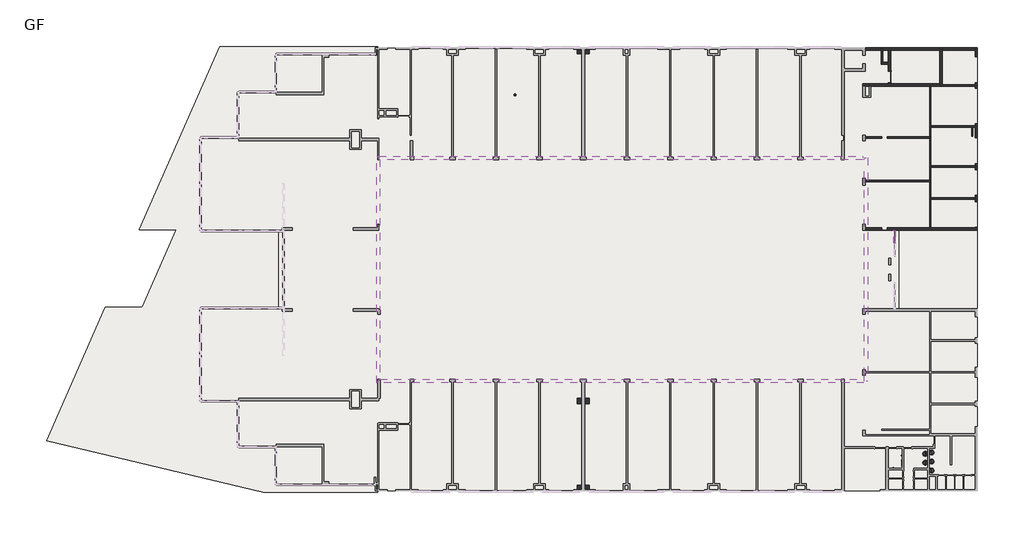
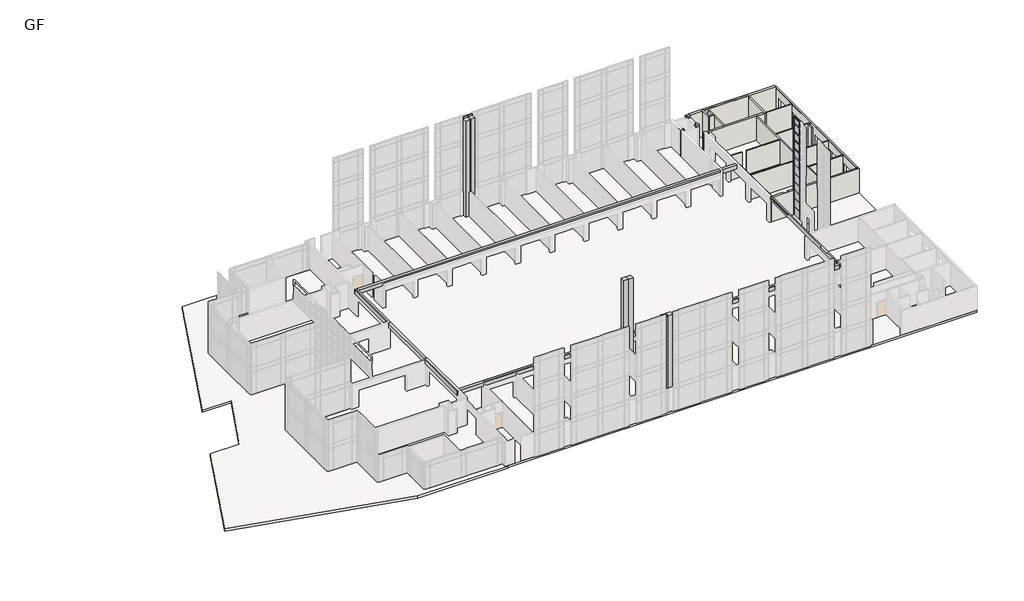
# One storey, part 23 of 23: 24 members, 17 walls, 12 plates, 9 columns, 9 flow terminals, 4 beams, 2 slabs, 1 door, 1 light fixture.
"""IFC4 building model written with IfcOpenShell, lengths in millimetres."""

from ifc_helpers import new_model, si_unit, frame, origin, place, context, project, spatial, polyline, outline, extrude, faceted_brep, transform, mapped, element, save
from components import m_single_flush_d_1200x2150_ab82cfb8, grab_rail_horizontal_grab_bar_horizontal_3488bc9b, grab_rail_vertical_grab_rail_vertical_4faa361f, sink_bathroom_2_sink_bathroom_2_b4141ae8, sink_bathroom_2_sink_bathroom_2_ad220687, street_light_8_street_light_8_87dfb617, rectangular_mullion_50_x_150mm_6588f46c, rectangular_mullion_50_x_150mm_35d6a770, rectangular_mullion_50_x_150mm_d99dc9be, rectangular_mullion_50_x_150mm_3ddb3363, rectangular_mullion_50_x_150mm_c30a9d19, rectangular_mullion_50_x_150mm_f822ab76, system_panel_glazed_1d396b08, system_panel_glazed_262f750d, system_panel_glazed_b53cd975, system_panel_glazed_33a55230

model = new_model("IFC4")

# Units and contexts
model_context = context("Model", 3, world=origin())
ifc_project = project(units=[si_unit("LENGTHUNIT", "METRE", prefix="MILLI")], contexts=[model_context])

# Site, building, storey
site = spatial("IfcSite", under=ifc_project)
building = spatial("IfcBuilding", under=site)
storey = spatial("IfcBuildingStorey", under=building, Name="GF", Elevation=900.0)

# Beams
placement = place(None, origin())
element("IfcBeam", 1, ObjectType="M_Concrete-Rectangular Beam : 350 x 550mm", at=placement, inside=storey, context=model_context, shape_type="SweptSolid", body=[
    extrude(outline(polyline([(-20537.5865899, 9397.3851347), (-20640.5865899, 9500.3851347), (-20640.5865899, 9747.3851347), (30775.4134101, 9747.3851347), (30775.4134101, 9397.3851347), (-20537.5865899, 9397.3851347)])), frame((0.0, 0.0, 4100.0), z_axis=(0.0, 0.0, 1.0), x_axis=(1.0, 0.0, 0.0)), (0.0, 0.0, 1.0), 550.0),
    extrude(outline(polyline([(-20782.5865899, 9642.3851347), (-20887.5865899, 9747.3851347), (-20782.5865899, 9747.3851347), (-20782.5865899, 9642.3851347)])), frame((0.0, 0.0, 4100.0), z_axis=(0.0, 0.0, 1.0), x_axis=(1.0, 0.0, 0.0)), (0.0, 0.0, 1.0), 550.0),
])
element("IfcBeam", 2, ObjectType="M_Concrete-Rectangular Beam : 350 x 550mm", at=placement, inside=storey, context=model_context, shape_type="Brep", body=[
    faceted_brep([(30962.4134101, -14147.6148653, 4025.0), (31312.4134101, -14147.6148653, 4025.0), (31312.4134101, -14147.6148653, 4375.0), (30962.4134101, -14147.6148653, 4375.0), (31312.4134101, 9572.3851347, 4025.0), (30962.4134101, 9572.3851347, 4025.0), (30962.4134101, 9572.3851347, 4375.0), (31312.4134101, 9572.3851347, 4375.0), (30962.4134101, -11460.6148653, 4575.0), (30962.4134101, -13960.6148653, 4575.0), (30977.4134101, -13960.6148653, 4575.0), (30977.4134101, -11460.6148653, 4575.0), (30962.4134101, 9397.3851347, 4025.0), (30962.4134101, -13972.6148653, 4025.0), (30962.4134101, -13960.6148653, 4375.0), (30962.4134101, -11460.6148653, 4375.0), (30962.4134101, -9910.6148653, 4375.0), (30962.4134101, -9910.6148653, 4575.0), (30962.4134101, 5335.3851347, 4575.0), (30962.4134101, 5335.3851347, 4375.0), (30962.4134101, 6885.3851347, 4375.0), (30962.4134101, 6885.3851347, 4575.0), (30962.4134101, 9385.3851347, 4575.0), (30962.4134101, 9385.3851347, 4375.0), (30977.4134101, -11460.6148653, 4375.0), (30977.4134101, -13960.6148653, 4375.0), (30977.4134101, 9385.3851347, 4375.0), (30977.4134101, 6885.3851347, 4375.0), (30977.4134101, 5335.3851347, 4375.0), (30977.4134101, -9910.6148653, 4375.0), (30977.4134101, -9910.6148653, 4575.0), (30977.4134101, 5335.3851347, 4575.0), (30977.4134101, 6885.3851347, 4575.0), (30977.4134101, 9385.3851347, 4575.0)], [[[0, 1, 2, 3]], [[4, 5, 6, 7]], [[8, 9, 10, 11]], [[5, 12, 13, 0, 3, 14, 9, 8, 15, 16, 17, 18, 19, 20, 21, 22, 23, 6]], [[1, 0, 13, 12, 5, 4]], [[1, 4, 7, 2]], [[24, 25, 14, 3, 2, 7, 6, 23, 26, 27, 20, 19, 28, 29, 16, 15]], [[14, 25, 10, 9]], [[25, 24, 11, 10]], [[24, 15, 8, 11]], [[16, 29, 30, 17]], [[29, 28, 31, 30]], [[28, 19, 18, 31]], [[20, 27, 32, 21]], [[27, 26, 33, 32]], [[26, 23, 22, 33]], [[18, 17, 30, 31]], [[22, 21, 32, 33]]]),
])
element("IfcBeam", 3, ObjectType="M_Concrete-Rectangular Beam : 350 x 550mm", at=placement, inside=storey, context=model_context, shape_type="SweptSolid", body=[
    extrude(outline(polyline([(-20887.5865899, -14322.6148653), (-20537.5865899, -13972.6148653), (30900.9134101, -13972.6148653), (30900.9134101, -14322.6148653), (-20887.5865899, -14322.6148653)])), frame((0.0, 0.0, 4100.0), z_axis=(0.0, 0.0, 1.0), x_axis=(1.0, 0.0, 0.0)), (0.0, 0.0, 1.0), 550.0),
])
element("IfcBeam", 4, ObjectType="M_Concrete-Rectangular Beam : 350 x 550mm", at=placement, inside=storey, context=model_context, shape_type="Brep", body=[
    faceted_brep([(-20887.5865899, 9747.3851347, 4575.0), (-20887.5865899, -14322.6148653, 4575.0), (-20537.5865899, -13972.6148653, 4575.0), (-20537.5865899, 9397.3851347, 4575.0), (-20537.5865899, -13972.6148653, 4100.0), (-20537.5865899, -13972.6148653, 4025.0), (-20537.5865899, 9397.3851347, 4025.0), (-20537.5865899, 9397.3851347, 4100.0), (-20887.5865899, -14322.6148653, 4025.0), (-20887.5865899, 9747.3851347, 4025.0), (-20887.5865899, 9747.3851347, 4100.0), (-20887.5865899, -14322.6148653, 4100.0)], [[[0, 1, 2, 3]], [[3, 2, 4, 5, 6, 7]], [[6, 5, 8, 9]], [[1, 0, 10, 9, 8, 11]], [[0, 3, 7, 6, 9, 10]], [[8, 5, 4, 2, 1, 11]]]),
])

# Columns
element("IfcColumn", 5, ObjectType="M_Concrete-Lshaped-Column : C4-450x450x230", at=placement, inside=storey, context=model_context, shape_type="SweptSolid", body=[
    extrude(outline(polyline([(28787.4134101, 19237.3851347), (28787.4134101, 19017.3851347), (29007.4134101, 19017.3851347), (29007.4134101, 18787.3851347), (28557.4134101, 18787.3851347), (28557.4134101, 19237.3851347), (28787.4134101, 19237.3851347)])), frame((0.0, 0.0, 900.0), z_axis=(0.0, 0.0, 1.0), x_axis=(1.0, 0.0, 0.0)), (0.0, 0.0, 1.0), 3750.0),
])
element("IfcColumn", 6, ObjectType="M_Concrete-Lshaped-Column : C4-450x450x230", at=placement, inside=storey, context=model_context, shape_type="SweptSolid", body=[
    extrude(outline(polyline([(30787.4134101, 19237.3851347), (31017.4134101, 19237.3851347), (31017.4134101, 18787.3851347), (30567.4134101, 18787.3851347), (30567.4134101, 19017.3851347), (30787.4134101, 19017.3851347), (30787.4134101, 19237.3851347)])), frame((0.0, 0.0, 900.0), z_axis=(0.0, 0.0, 1.0), x_axis=(1.0, 0.0, 0.0)), (0.0, 0.0, 1.0), 3750.0),
])
element("IfcColumn", 7, ObjectType="M_Concrete-Lshaped-Column : C4-450x450x230", at=placement, inside=storey, context=model_context, shape_type="SweptSolid", body=[
    extrude(outline(polyline([(30787.4134101, 20797.3851347), (30787.4134101, 21017.3851347), (30567.4134101, 21017.3851347), (30567.4134101, 21247.3851347), (31017.4134101, 21247.3851347), (31017.4134101, 20797.3851347), (30787.4134101, 20797.3851347)])), frame((0.0, 0.0, 900.0), z_axis=(0.0, 0.0, 1.0), x_axis=(1.0, 0.0, 0.0)), (0.0, 0.0, 1.0), 3750.0),
])
element("IfcColumn", 8, ObjectType="Concrete-Rectangular-Column : 600x600", at=placement, inside=storey, context=model_context, shape_type="Brep", body=[
    faceted_brep([(1022.4134101, -15972.6148653, 900.0), (1022.4134101, -16572.6148653, 900.0), (422.4134101, -16572.6148653, 900.0), (422.4134101, -15972.6148653, 900.0), (422.4134101, -15972.6148653, 7550.0), (422.4134101, -15972.6148653, 8100.0), (422.4134101, -15972.6148653, 11300.0), (422.4134101, -15972.6148653, 11850.0), (422.4134101, -15972.6148653, 14375.0), (1022.4134101, -15972.6148653, 14375.0), (1022.4134101, -15972.6148653, 11850.0), (1022.4134101, -15972.6148653, 11300.0), (1022.4134101, -15972.6148653, 8100.0), (1022.4134101, -15972.6148653, 7550.0), (422.4134101, -16572.6148653, 14375.0), (1022.4134101, -16572.6148653, 14375.0)], [[[0, 1, 2, 3]], [[0, 3, 4, 5, 6, 7, 8, 9, 10, 11, 12, 13]], [[3, 2, 14, 8, 7, 6, 5, 4]], [[2, 1, 15, 14]], [[1, 0, 13, 12, 11, 10, 9, 15]], [[9, 8, 14, 15]]]),
])
element("IfcColumn", 9, ObjectType="Concrete-Rectangular-Column : 600x600", at=placement, inside=storey, context=model_context, shape_type="SweptSolid", body=[
    extrude(outline(polyline([(21247.3851347, 900.0), (20647.3851347, 900.0), (20647.3851347, 14725.0), (21235.3851347, 14725.0), (21235.3851347, 15000.0), (21247.3851347, 15000.0), (21247.3851347, 900.0)])), frame((422.4134101, 0.0, 0.0), z_axis=(1.0, 0.0, 0.0), x_axis=(0.0, 1.0, 0.0)), (0.0, 0.0, 1.0), 600.0),
])
element("IfcColumn", 10, ObjectType="Concrete-Rectangular-Column : 600x600", at=placement, inside=storey, context=model_context, shape_type="Brep", body=[
    faceted_brep([(1697.4134101, -15972.6148653, 900.0), (1697.4134101, -16572.6148653, 900.0), (1097.4134101, -16572.6148653, 900.0), (1097.4134101, -15972.6148653, 900.0), (1097.4134101, -15972.6148653, 7550.0), (1097.4134101, -15972.6148653, 8100.0), (1097.4134101, -15972.6148653, 11300.0), (1097.4134101, -15972.6148653, 11850.0), (1097.4134101, -15972.6148653, 14375.0), (1697.4134101, -15972.6148653, 14375.0), (1697.4134101, -15972.6148653, 11850.0), (1697.4134101, -15972.6148653, 11300.0), (1697.4134101, -15972.6148653, 8100.0), (1697.4134101, -15972.6148653, 7550.0), (1097.4134101, -16572.6148653, 14375.0), (1697.4134101, -16572.6148653, 14375.0)], [[[0, 1, 2, 3]], [[0, 3, 4, 5, 6, 7, 8, 9, 10, 11, 12, 13]], [[3, 2, 14, 8, 7, 6, 5, 4]], [[2, 1, 15, 14]], [[1, 0, 13, 12, 11, 10, 9, 15]], [[9, 8, 14, 15]]]),
])
element("IfcColumn", 11, ObjectType="Concrete-Rectangular-Column : 600x600", at=placement, inside=storey, context=model_context, shape_type="SweptSolid", body=[
    extrude(outline(polyline([(21247.3851347, 900.0), (20647.3851347, 900.0), (20647.3851347, 14725.0), (21235.3851347, 14725.0), (21235.3851347, 15000.0), (21247.3851347, 15000.0), (21247.3851347, 900.0)])), frame((1097.4134101, 0.0, 0.0), z_axis=(1.0, 0.0, 0.0), x_axis=(0.0, 1.0, 0.0)), (0.0, 0.0, 1.0), 600.0),
])
element("IfcColumn", 12, ObjectType="Concrete-Rectangular-Column : 600x600", at=placement, inside=storey, context=model_context, shape_type="SweptSolid", body=[
    extrude(outline(polyline([(1022.4134101, -25222.6148653), (1022.4134101, -25822.6148653), (422.4134101, -25822.6148653), (422.4134101, -25222.6148653), (1022.4134101, -25222.6148653)])), frame((0.0, 0.0, 900.0), z_axis=(0.0, 0.0, 1.0), x_axis=(1.0, 0.0, 0.0)), (0.0, 0.0, 1.0), 13825.0),
])
element("IfcColumn", 13, ObjectType="Concrete-Rectangular-Column : 600x600", at=placement, inside=storey, context=model_context, shape_type="SweptSolid", body=[
    extrude(outline(polyline([(1697.4134101, -25222.6148653), (1697.4134101, -25822.6148653), (1097.4134101, -25822.6148653), (1097.4134101, -25222.6148653), (1697.4134101, -25222.6148653)])), frame((0.0, 0.0, 900.0), z_axis=(0.0, 0.0, 1.0), x_axis=(1.0, 0.0, 0.0)), (0.0, 0.0, 1.0), 13825.0),
])

# Door
m_single_flush_d_1200x2150_shape = m_single_flush_d_1200x2150_ab82cfb8(model_context)
element("IfcDoor", 14, ObjectType="M_Single-Flush : D-1200x2150", at=placement, inside=storey, context=model_context, shape_type="MappedRepresentation", body=[
    mapped(m_single_flush_d_1200x2150_shape, transform((33645.9134101, 18167.3851347, 900.0), x_axis=(0.0, -1.0, 0.0), y_axis=(1.0, 0.0, 0.0), z_axis=(0.0, 0.0, 1.0))),
])

# Flow terminals
grab_rail_horizontal_grab_bar_horizontal_shape = grab_rail_horizontal_grab_bar_horizontal_3488bc9b(model_context)
element("IfcFlowTerminal", 15, ObjectType="Grab Rail - Horizontal : Grab Bar Horizontal", at=placement, inside=storey, context=model_context, shape_type="MappedRepresentation", body=[
    mapped(grab_rail_horizontal_grab_bar_horizontal_shape, transform((34992.4134101, -23724.4105318, 900.0), x_axis=(0.0, -1.0, 0.0), y_axis=(1.0, 0.0, 0.0), z_axis=(0.0, 0.0, 1.0))),
])
grab_rail_vertical_grab_rail_vertical_shape = grab_rail_vertical_grab_rail_vertical_4faa361f(model_context)
element("IfcFlowTerminal", 16, ObjectType="Grab Rail - Vertical : Grab Rail Vertical", at=placement, inside=storey, context=model_context, shape_type="MappedRepresentation", body=[
    mapped(grab_rail_vertical_grab_rail_vertical_shape, transform((33166.6177436, -23422.6148653, 900.0), x_axis=(-1.0, 0.0, 0.0), y_axis=(0.0, -1.0, 0.0), z_axis=(0.0, 0.0, 1.0))),
])
element("IfcFlowTerminal", 17, ObjectType="Grab Rail - Vertical : Grab Rail Vertical", at=placement, inside=storey, context=model_context, shape_type="MappedRepresentation", body=[
    mapped(grab_rail_vertical_grab_rail_vertical_shape, transform((34992.4134101, -23424.4105318, 900.0), x_axis=(0.0, -1.0, 0.0), y_axis=(1.0, 0.0, 0.0), z_axis=(0.0, 0.0, 1.0))),
])
element("IfcFlowTerminal", 18, ObjectType="Grab Rail - Vertical : Grab Rail Vertical", at=placement, inside=storey, context=model_context, shape_type="MappedRepresentation", body=[
    mapped(grab_rail_vertical_grab_rail_vertical_shape, transform((34992.4134101, -22924.4105318, 900.0), x_axis=(0.0, -1.0, 0.0), y_axis=(1.0, 0.0, 0.0), z_axis=(0.0, 0.0, 1.0))),
])
sink_bathroom_2_sink_bathroom_2_shape = sink_bathroom_2_sink_bathroom_2_b4141ae8(model_context)
element("IfcFlowTerminal", 19, ObjectType="Sink - Bathroom (2) : Sink - Bathroom (2)", at=placement, inside=storey, context=model_context, shape_type="MappedRepresentation", body=[
    mapped(sink_bathroom_2_sink_bathroom_2_shape, transform((37822.4134101, -22732.4647318, 900.0), x_axis=(0.0, 1.0, 0.0), y_axis=(-1.0, 0.0, 0.0), z_axis=(0.0, 0.0, 1.0))),
])
element("IfcFlowTerminal", 20, ObjectType="Sink - Bathroom (2) : Sink - Bathroom (2)", at=placement, inside=storey, context=model_context, shape_type="MappedRepresentation", body=[
    mapped(sink_bathroom_2_sink_bathroom_2_shape, transform((37822.4134101, -21782.4647318, 900.0), x_axis=(0.0, 1.0, 0.0), y_axis=(-1.0, 0.0, 0.0), z_axis=(0.0, 0.0, 1.0))),
])
element("IfcFlowTerminal", 21, ObjectType="Sink - Bathroom (2) : Sink - Bathroom (2)", at=placement, inside=storey, context=model_context, shape_type="MappedRepresentation", body=[
    mapped(sink_bathroom_2_sink_bathroom_2_shape, transform((37822.4134101, -23682.4647318, 900.0), x_axis=(0.0, 1.0, 0.0), y_axis=(-1.0, 0.0, 0.0), z_axis=(0.0, 0.0, 1.0))),
])
sink_bathroom_2_sink_bathroom_2_2_shape = sink_bathroom_2_sink_bathroom_2_ad220687(model_context)
element("IfcFlowTerminal", 22, ObjectType="Sink - Bathroom (2) : Sink - Bathroom (2)", at=placement, inside=storey, context=model_context, shape_type="MappedRepresentation", body=[
    mapped(sink_bathroom_2_sink_bathroom_2_2_shape, transform((37707.4134101, -22859.9647318, 900.0), x_axis=(0.0, 1.0, 0.0), y_axis=(-1.0, 0.0, 0.0), z_axis=(0.0, 0.0, 1.0))),
])
element("IfcFlowTerminal", 23, ObjectType="Sink - Bathroom (2) : Sink - Bathroom (2)", at=placement, inside=storey, context=model_context, shape_type="MappedRepresentation", body=[
    mapped(sink_bathroom_2_sink_bathroom_2_2_shape, transform((37707.4134101, -21909.9647318, 900.0), x_axis=(0.0, 1.0, 0.0), y_axis=(-1.0, 0.0, 0.0), z_axis=(0.0, 0.0, 1.0))),
])

# Light fixture
street_light_8_street_light_8_shape = street_light_8_street_light_8_87dfb617(model_context)
element("IfcLightFixture", 24, ObjectType="Street Light (8) : Street Light (8)", at=placement, inside=storey, context=model_context, shape_type="MappedRepresentation", body=[
    mapped(street_light_8_street_light_8_shape, transform((-6207.5865899, 16277.3851347, 950.0), x_axis=(1.0, 0.0, 0.0), y_axis=(0.0, 1.0, 0.0), z_axis=(0.0, 0.0, 1.0))),
])

# Members
rectangular_mullion_50_x_150mm_shape = rectangular_mullion_50_x_150mm_6588f46c(model_context)
element("IfcMember", 25, ObjectType="Rectangular Mullion : 50 x 150mm", at=placement, inside=storey, context=model_context, shape_type="MappedRepresentation", body=[
    mapped(rectangular_mullion_50_x_150mm_shape, transform((34137.4134101, 1898.8851347, 9300.0), x_axis=(0.0, 1.0, 0.0), y_axis=(1.0, 0.0, 0.0), z_axis=(0.0, 0.0, -1.0))),
])
element("IfcMember", 26, ObjectType="Rectangular Mullion : 50 x 150mm", at=placement, inside=storey, context=model_context, shape_type="MappedRepresentation", body=[
    mapped(rectangular_mullion_50_x_150mm_shape, transform((34137.4134101, 1898.8851347, 10500.0), x_axis=(0.0, 1.0, 0.0), y_axis=(1.0, 0.0, 0.0), z_axis=(0.0, 0.0, -1.0))),
])
element("IfcMember", 27, ObjectType="Rectangular Mullion : 50 x 150mm", at=placement, inside=storey, context=model_context, shape_type="MappedRepresentation", body=[
    mapped(rectangular_mullion_50_x_150mm_shape, transform((34137.4134101, 1898.8851347, 11700.0), x_axis=(0.0, 1.0, 0.0), y_axis=(1.0, 0.0, 0.0), z_axis=(0.0, 0.0, -1.0))),
])
element("IfcMember", 28, ObjectType="Rectangular Mullion : 50 x 150mm", at=placement, inside=storey, context=model_context, shape_type="MappedRepresentation", body=[
    mapped(rectangular_mullion_50_x_150mm_shape, transform((34137.4134101, 1898.8851347, 12900.0), x_axis=(0.0, 1.0, 0.0), y_axis=(1.0, 0.0, 0.0), z_axis=(0.0, 0.0, -1.0))),
])
rectangular_mullion_50_x_150mm_2_shape = rectangular_mullion_50_x_150mm_35d6a770(model_context)
element("IfcMember", 29, ObjectType="Rectangular Mullion : 50 x 150mm", at=placement, inside=storey, context=model_context, shape_type="MappedRepresentation", body=[
    mapped(rectangular_mullion_50_x_150mm_2_shape, transform((34137.4134101, 1898.8851347, 14100.0), x_axis=(0.0, 1.0, 0.0), y_axis=(1.0, 0.0, 0.0), z_axis=(0.0, 0.0, -1.0))),
])
rectangular_mullion_50_x_150mm_3_shape = rectangular_mullion_50_x_150mm_d99dc9be(model_context)
element("IfcMember", 30, ObjectType="Rectangular Mullion : 50 x 150mm", at=placement, inside=storey, context=model_context, shape_type="MappedRepresentation", body=[
    mapped(rectangular_mullion_50_x_150mm_3_shape, transform((34137.4134101, 521.3639251, 9300.0), x_axis=(0.0, 1.0, 0.0), y_axis=(1.0, 0.0, 0.0), z_axis=(0.0, 0.0, -1.0))),
])
element("IfcMember", 31, ObjectType="Rectangular Mullion : 50 x 150mm", at=placement, inside=storey, context=model_context, shape_type="MappedRepresentation", body=[
    mapped(rectangular_mullion_50_x_150mm_3_shape, transform((34137.4134101, 521.3639251, 10500.0), x_axis=(0.0, 1.0, 0.0), y_axis=(1.0, 0.0, 0.0), z_axis=(0.0, 0.0, -1.0))),
])
element("IfcMember", 32, ObjectType="Rectangular Mullion : 50 x 150mm", at=placement, inside=storey, context=model_context, shape_type="MappedRepresentation", body=[
    mapped(rectangular_mullion_50_x_150mm_3_shape, transform((34137.4134101, 521.3639251, 11700.0), x_axis=(0.0, 1.0, 0.0), y_axis=(1.0, 0.0, 0.0), z_axis=(0.0, 0.0, -1.0))),
])
element("IfcMember", 33, ObjectType="Rectangular Mullion : 50 x 150mm", at=placement, inside=storey, context=model_context, shape_type="MappedRepresentation", body=[
    mapped(rectangular_mullion_50_x_150mm_3_shape, transform((34137.4134101, 521.3639251, 12900.0), x_axis=(0.0, 1.0, 0.0), y_axis=(1.0, 0.0, 0.0), z_axis=(0.0, 0.0, -1.0))),
])
rectangular_mullion_50_x_150mm_4_shape = rectangular_mullion_50_x_150mm_3ddb3363(model_context)
element("IfcMember", 34, ObjectType="Rectangular Mullion : 50 x 150mm", at=placement, inside=storey, context=model_context, shape_type="MappedRepresentation", body=[
    mapped(rectangular_mullion_50_x_150mm_4_shape, transform((34137.4134101, 521.3639251, 14100.0), x_axis=(0.0, 1.0, 0.0), y_axis=(1.0, 0.0, 0.0), z_axis=(0.0, 0.0, -1.0))),
])
rectangular_mullion_50_x_150mm_5_shape = rectangular_mullion_50_x_150mm_c30a9d19(model_context)
element("IfcMember", 35, ObjectType="Rectangular Mullion : 50 x 150mm", at=placement, inside=storey, context=model_context, shape_type="MappedRepresentation", body=[
    mapped(rectangular_mullion_50_x_150mm_5_shape, transform((34137.4134101, 1848.8851347, 15000.0), x_axis=(0.0, 0.0, 1.0), y_axis=(1.0, 0.0, 0.0), z_axis=(0.0, 1.0, 0.0))),
])
rectangular_mullion_50_x_150mm_6_shape = rectangular_mullion_50_x_150mm_f822ab76(model_context)
element("IfcMember", 36, ObjectType="Rectangular Mullion : 50 x 150mm", at=placement, inside=storey, context=model_context, shape_type="MappedRepresentation", body=[
    mapped(rectangular_mullion_50_x_150mm_6_shape, transform((34137.4134101, 1848.8851347, 9300.0), x_axis=(0.0, 0.0, 1.0), y_axis=(1.0, 0.0, 0.0), z_axis=(0.0, 1.0, 0.0))),
])
element("IfcMember", 37, ObjectType="Rectangular Mullion : 50 x 150mm", at=placement, inside=storey, context=model_context, shape_type="MappedRepresentation", body=[
    mapped(rectangular_mullion_50_x_150mm_6_shape, transform((34137.4134101, 1848.8851347, 10500.0), x_axis=(0.0, 0.0, 1.0), y_axis=(1.0, 0.0, 0.0), z_axis=(0.0, 1.0, 0.0))),
])
element("IfcMember", 38, ObjectType="Rectangular Mullion : 50 x 150mm", at=placement, inside=storey, context=model_context, shape_type="MappedRepresentation", body=[
    mapped(rectangular_mullion_50_x_150mm_6_shape, transform((34137.4134101, 1848.8851347, 11700.0), x_axis=(0.0, 0.0, 1.0), y_axis=(1.0, 0.0, 0.0), z_axis=(0.0, 1.0, 0.0))),
])
element("IfcMember", 39, ObjectType="Rectangular Mullion : 50 x 150mm", at=placement, inside=storey, context=model_context, shape_type="MappedRepresentation", body=[
    mapped(rectangular_mullion_50_x_150mm_6_shape, transform((34137.4134101, 1848.8851347, 12900.0), x_axis=(0.0, 0.0, 1.0), y_axis=(1.0, 0.0, 0.0), z_axis=(0.0, 1.0, 0.0))),
])
element("IfcMember", 40, ObjectType="Rectangular Mullion : 50 x 150mm", at=placement, inside=storey, context=model_context, shape_type="MappedRepresentation", body=[
    mapped(rectangular_mullion_50_x_150mm_6_shape, transform((34137.4134101, 1848.8851347, 14100.0), x_axis=(0.0, 0.0, 1.0), y_axis=(1.0, 0.0, 0.0), z_axis=(0.0, 1.0, 0.0))),
])
element("IfcMember", 41, ObjectType="Rectangular Mullion : 50 x 150mm", at=placement, inside=storey, context=model_context, shape_type="MappedRepresentation", body=[
    mapped(rectangular_mullion_50_x_150mm_3_shape, transform((34137.4134101, 521.3639251, 8100.0), x_axis=(0.0, 1.0, 0.0), y_axis=(1.0, 0.0, 0.0), z_axis=(0.0, 0.0, -1.0))),
])
element("IfcMember", 42, ObjectType="Rectangular Mullion : 50 x 150mm", at=placement, inside=storey, context=model_context, shape_type="MappedRepresentation", body=[
    mapped(rectangular_mullion_50_x_150mm_shape, transform((34137.4134101, 1898.8851347, 900.0), x_axis=(0.0, 1.0, 0.0), y_axis=(1.0, 0.0, 0.0), z_axis=(0.0, 0.0, -1.0))),
])
element("IfcMember", 43, ObjectType="Rectangular Mullion : 50 x 150mm", at=placement, inside=storey, context=model_context, shape_type="MappedRepresentation", body=[
    mapped(rectangular_mullion_50_x_150mm_shape, transform((34137.4134101, 1898.8851347, 2100.0), x_axis=(0.0, 1.0, 0.0), y_axis=(1.0, 0.0, 0.0), z_axis=(0.0, 0.0, -1.0))),
])
element("IfcMember", 44, ObjectType="Rectangular Mullion : 50 x 150mm", at=placement, inside=storey, context=model_context, shape_type="MappedRepresentation", body=[
    mapped(rectangular_mullion_50_x_150mm_shape, transform((34137.4134101, 1898.8851347, 3300.0), x_axis=(0.0, 1.0, 0.0), y_axis=(1.0, 0.0, 0.0), z_axis=(0.0, 0.0, -1.0))),
])
element("IfcMember", 45, ObjectType="Rectangular Mullion : 50 x 150mm", at=placement, inside=storey, context=model_context, shape_type="MappedRepresentation", body=[
    mapped(rectangular_mullion_50_x_150mm_shape, transform((34137.4134101, 1898.8851347, 4500.0), x_axis=(0.0, 1.0, 0.0), y_axis=(1.0, 0.0, 0.0), z_axis=(0.0, 0.0, -1.0))),
])
element("IfcMember", 46, ObjectType="Rectangular Mullion : 50 x 150mm", at=placement, inside=storey, context=model_context, shape_type="MappedRepresentation", body=[
    mapped(rectangular_mullion_50_x_150mm_shape, transform((34137.4134101, 1898.8851347, 5700.0), x_axis=(0.0, 1.0, 0.0), y_axis=(1.0, 0.0, 0.0), z_axis=(0.0, 0.0, -1.0))),
])
element("IfcMember", 47, ObjectType="Rectangular Mullion : 50 x 150mm", at=placement, inside=storey, context=model_context, shape_type="MappedRepresentation", body=[
    mapped(rectangular_mullion_50_x_150mm_shape, transform((34137.4134101, 1898.8851347, 6900.0), x_axis=(0.0, 1.0, 0.0), y_axis=(1.0, 0.0, 0.0), z_axis=(0.0, 0.0, -1.0))),
])
element("IfcMember", 48, ObjectType="Rectangular Mullion : 50 x 150mm", at=placement, inside=storey, context=model_context, shape_type="MappedRepresentation", body=[
    mapped(rectangular_mullion_50_x_150mm_shape, transform((34137.4134101, 1898.8851347, 8100.0), x_axis=(0.0, 1.0, 0.0), y_axis=(1.0, 0.0, 0.0), z_axis=(0.0, 0.0, -1.0))),
])

# Plates
system_panel_glazed_shape = system_panel_glazed_1d396b08(model_context)
element("IfcPlate", 49, ObjectType="System Panel : Glazed", at=placement, inside=storey, context=model_context, shape_type="MappedRepresentation", body=[
    mapped(system_panel_glazed_shape, transform((34137.4134101, 1197.6245299, 9325.0), x_axis=(0.0, 1.0, 0.0), y_axis=(-1.0, 0.0, 0.0), z_axis=(0.0, 0.0, 1.0))),
])
element("IfcPlate", 50, ObjectType="System Panel : Glazed", at=placement, inside=storey, context=model_context, shape_type="MappedRepresentation", body=[
    mapped(system_panel_glazed_shape, transform((34137.4134101, 1197.6245299, 10525.0), x_axis=(0.0, 1.0, 0.0), y_axis=(-1.0, 0.0, 0.0), z_axis=(0.0, 0.0, 1.0))),
])
element("IfcPlate", 51, ObjectType="System Panel : Glazed", at=placement, inside=storey, context=model_context, shape_type="MappedRepresentation", body=[
    mapped(system_panel_glazed_shape, transform((34137.4134101, 1197.6245299, 11725.0), x_axis=(0.0, 1.0, 0.0), y_axis=(-1.0, 0.0, 0.0), z_axis=(0.0, 0.0, 1.0))),
])
element("IfcPlate", 52, ObjectType="System Panel : Glazed", at=placement, inside=storey, context=model_context, shape_type="MappedRepresentation", body=[
    mapped(system_panel_glazed_shape, transform((34137.4134101, 1197.6245299, 12925.0), x_axis=(0.0, 1.0, 0.0), y_axis=(-1.0, 0.0, 0.0), z_axis=(0.0, 0.0, 1.0))),
])
system_panel_glazed_2_shape = system_panel_glazed_262f750d(model_context)
element("IfcPlate", 53, ObjectType="System Panel : Glazed", at=placement, inside=storey, context=model_context, shape_type="MappedRepresentation", body=[
    mapped(system_panel_glazed_2_shape, transform((34137.4134101, 1197.6245299, 14125.0), x_axis=(0.0, 1.0, 0.0), y_axis=(-1.0, 0.0, 0.0), z_axis=(0.0, 0.0, 1.0))),
])
system_panel_glazed_3_shape = system_panel_glazed_b53cd975(model_context)
element("IfcPlate", 54, ObjectType="System Panel : Glazed", at=placement, inside=storey, context=model_context, shape_type="MappedRepresentation", body=[
    mapped(system_panel_glazed_3_shape, transform((34137.4134101, 1197.6245299, 8100.0), x_axis=(0.0, 1.0, 0.0), y_axis=(-1.0, 0.0, 0.0), z_axis=(0.0, 0.0, 1.0))),
])
system_panel_glazed_4_shape = system_panel_glazed_33a55230(model_context)
element("IfcPlate", 55, ObjectType="System Panel : Glazed", at=placement, inside=storey, context=model_context, shape_type="MappedRepresentation", body=[
    mapped(system_panel_glazed_4_shape, transform((34137.4134101, 1185.1245299, 900.0), x_axis=(0.0, 1.0, 0.0), y_axis=(-1.0, 0.0, 0.0), z_axis=(0.0, 0.0, 1.0))),
])
element("IfcPlate", 56, ObjectType="System Panel : Glazed", at=placement, inside=storey, context=model_context, shape_type="MappedRepresentation", body=[
    mapped(system_panel_glazed_4_shape, transform((34137.4134101, 1185.1245299, 2100.0), x_axis=(0.0, 1.0, 0.0), y_axis=(-1.0, 0.0, 0.0), z_axis=(0.0, 0.0, 1.0))),
])
element("IfcPlate", 57, ObjectType="System Panel : Glazed", at=placement, inside=storey, context=model_context, shape_type="MappedRepresentation", body=[
    mapped(system_panel_glazed_4_shape, transform((34137.4134101, 1185.1245299, 3300.0), x_axis=(0.0, 1.0, 0.0), y_axis=(-1.0, 0.0, 0.0), z_axis=(0.0, 0.0, 1.0))),
])
element("IfcPlate", 58, ObjectType="System Panel : Glazed", at=placement, inside=storey, context=model_context, shape_type="MappedRepresentation", body=[
    mapped(system_panel_glazed_4_shape, transform((34137.4134101, 1185.1245299, 4500.0), x_axis=(0.0, 1.0, 0.0), y_axis=(-1.0, 0.0, 0.0), z_axis=(0.0, 0.0, 1.0))),
])
element("IfcPlate", 59, ObjectType="System Panel : Glazed", at=placement, inside=storey, context=model_context, shape_type="MappedRepresentation", body=[
    mapped(system_panel_glazed_4_shape, transform((34137.4134101, 1185.1245299, 5700.0), x_axis=(0.0, 1.0, 0.0), y_axis=(-1.0, 0.0, 0.0), z_axis=(0.0, 0.0, 1.0))),
])
element("IfcPlate", 60, ObjectType="System Panel : Glazed", at=placement, inside=storey, context=model_context, shape_type="MappedRepresentation", body=[
    mapped(system_panel_glazed_4_shape, transform((34137.4134101, 1185.1245299, 6900.0), x_axis=(0.0, 1.0, 0.0), y_axis=(-1.0, 0.0, 0.0), z_axis=(0.0, 0.0, 1.0))),
])

# Slabs
element("IfcSlab", 61, ObjectType="Composite 225mm", at=placement, inside=storey, context=model_context, shape_type="SweptSolid", body=[
    extrude(outline(polyline([(-20782.5865898, 21235.3851347), (42947.4134102, 21235.3851347), (42947.4134102, 1885.3851347), (34647.4134102, 1885.3851347), (34647.4134102, -6457.6148653), (42947.4134102, -6457.6148653), (42947.4134102, -25834.6148653), (-20782.5865899, -25834.6148653), (-20782.5865899, -25112.6148653), (-31552.5865898, -25112.6148653), (-31552.5865898, -21112.6148653), (-35552.5865898, -21112.6148653), (-35552.5865898, -16237.6148653), (-39552.5865898, -16237.6148653), (-39552.5865898, -6487.6148653), (-31352.5865898, -6487.6148653), (-31352.5865898, 1882.3851347), (-39552.5865898, 1882.3851347), (-39552.5865898, 11659.3851348), (-35552.5865898, 11659.3851348), (-35552.5865898, 16534.3851347), (-31552.5865898, 16534.3851347), (-31552.5865898, 20534.3851347), (-20782.5865898, 20534.3851347), (-20782.5865898, 21235.3851347)])), frame((0.0, 0.0, 625.0), z_axis=(0.0, 0.0, 1.0), x_axis=(1.0, 0.0, 0.0)), (0.0, 0.0, 1.0), 275.0),
])
element("IfcSlab", 62, ObjectType="Podium", at=placement, inside=storey, context=model_context, shape_type="SweptSolid", body=[
    extrude(outline(polyline([(-37547.7792804, 21409.3851347), (-20782.5865898, 21409.3851347), (-20782.5865898, 20534.3851347), (-31552.5865898, 20534.3851347), (-31552.5865898, 16534.3851347), (-35552.5865898, 16534.3851347), (-35552.5865898, 11659.3851348), (-39552.5865898, 11659.3851348), (-39552.5865898, 1882.3851347), (-31352.5865898, 1882.3851347), (-31352.5865898, -6487.6148653), (-39552.5865898, -6487.6148653), (-39552.5865898, -16237.6148653), (-35552.5865898, -16237.6148653), (-35552.5865898, -21112.6148653), (-31552.5865898, -21112.6148653), (-31552.5865898, -25094.024598), (-20782.5865899, -25094.024598), (-20782.5865899, -25969.024598), (-32947.3116747, -25969.024598), (-55979.7439577, -20474.7756347), (-49751.8018761, -6322.6148653), (-45818.6282266, -6322.6148653), (-42185.849973, 1932.3851347), (-46119.0236225, 1932.3851347), (-37547.7792804, 21409.3851347)])), frame((0.0, 0.0, 600.0), z_axis=(0.0, 0.0, 1.0), x_axis=(1.0, 0.0, 0.0)), (0.0, 0.0, 1.0), 300.0),
    extrude(outline(polyline([(42947.4134101, -6457.6148653), (34647.4134101, -6457.6148653), (34647.4134101, 1885.3851347), (42947.4134101, 1885.3851347), (42947.4134101, -6457.6148653)])), frame((0.0, 0.0, 600.0), z_axis=(0.0, 0.0, 1.0), x_axis=(1.0, 0.0, 0.0)), (0.0, 0.0, 1.0), 300.0),
])

# Walls
element("IfcWall", 63, ObjectType="wall-115", at=placement, inside=storey, context=model_context, shape_type="Brep", body=[
    faceted_brep([(38031.9134101, 2142.3851347, 900.0), (38031.9134101, 5202.8851347, 900.0), (38031.9134101, 5344.8851347, 900.0), (38031.9134101, 8577.8851347, 900.0), (38031.9134101, 8719.8851347, 900.0), (38031.9134101, 12827.8851347, 900.0), (38031.9134101, 12969.8851347, 900.0), (38031.9134101, 17207.3851348, 900.0), (38031.9134101, 17207.3851348, 4375.0), (38031.9134101, 12969.8851347, 4375.0), (38031.9134101, 12827.8851347, 4375.0), (38031.9134101, 8719.8851347, 4375.0), (38031.9134101, 8577.8851347, 4375.0), (38031.9134101, 5344.8851347, 4375.0), (38031.9134101, 5202.8851347, 4375.0), (38031.9134101, 2142.3851347, 4375.0), (37889.9134101, 2142.3851347, 900.0), (37889.9134101, 2142.3851347, 4375.0), (37889.9134101, 7047.8851347, 4375.0), (37889.9134101, 7189.8851347, 4375.0), (37889.9134101, 11662.5507406, 4375.0), (37889.9134101, 11804.5507406, 4375.0), (37889.9134101, 17207.3851348, 4375.0), (37889.9134101, 17207.3851348, 900.0), (37889.9134101, 11804.5507406, 900.0), (37889.9134101, 11662.5507406, 900.0), (37889.9134101, 7189.8851347, 900.0), (37889.9134101, 7047.8851347, 900.0)], [[[0, 1, 2, 3, 4, 5, 6, 7, 8, 9, 10, 11, 12, 13, 14, 15]], [[16, 17, 18, 19, 20, 21, 22, 23, 24, 25, 26, 27]], [[7, 6, 5, 4, 3, 2, 1, 0, 16, 27, 26, 25, 24, 23]], [[8, 7, 23, 22]], [[0, 15, 17, 16]], [[15, 14, 13, 12, 11, 10, 9, 8, 22, 21, 20, 19, 18, 17]]]),
])
element("IfcWall", 64, ObjectType="wall-115", at=placement, inside=storey, context=model_context, shape_type="SweptSolid", body=[
    extrude(outline(polyline([(37889.9134101, 7047.8851347), (31032.4134101, 7047.8851347), (31032.4134101, 7189.8851347), (37889.9134101, 7189.8851347), (37889.9134101, 7047.8851347)])), frame((0.0, 0.0, 900.0), z_axis=(0.0, 0.0, 1.0), x_axis=(1.0, 0.0, 0.0)), (0.0, 0.0, 1.0), 3475.0),
])
element("IfcWall", 65, ObjectType="wall-115", at=placement, inside=storey, context=model_context, shape_type="SweptSolid", body=[
    extrude(outline(polyline([(37889.9134101, 11804.5507406), (37889.9134101, 11662.5507406), (33387.4134101, 11662.5507406), (33387.4134101, 11804.5507406), (37889.9134101, 11804.5507406)])), frame((0.0, 0.0, 900.0), z_axis=(0.0, 0.0, 1.0), x_axis=(1.0, 0.0, 0.0)), (0.0, 0.0, 1.0), 3475.0),
    extrude(outline(polyline([(31032.4134101, 11662.5507406), (31032.4134101, 11804.5507406), (32787.4134101, 11804.5507406), (32787.4134101, 11662.5507406), (31032.4134101, 11662.5507406)])), frame((0.0, 0.0, 900.0), z_axis=(0.0, 0.0, 1.0), x_axis=(1.0, 0.0, 0.0)), (0.0, 0.0, 1.0), 3475.0),
])
element("IfcWall", 66, ObjectType="wall-115", at=placement, inside=storey, context=model_context, shape_type="Brep", body=[
    faceted_brep([(38031.9134101, 12827.8851347, 900.0), (42347.4134101, 12827.8851347, 900.0), (42489.4134101, 12827.8851347, 900.0), (42717.4134101, 12827.8851347, 900.0), (42717.4134101, 12827.8851347, 4375.0), (42489.4134101, 12827.8851347, 4375.0), (42347.4134101, 12827.8851347, 4375.0), (38031.9134101, 12827.8851347, 4375.0), (38031.9134101, 12969.8851347, 900.0), (38031.9134101, 12969.8851347, 4375.0), (42717.4134101, 12969.8851347, 4375.0), (42717.4134101, 12969.8851347, 900.0)], [[[0, 1, 2, 3, 4, 5, 6, 7]], [[8, 9, 10, 11]], [[3, 2, 1, 0, 8, 11]], [[0, 7, 9, 8]], [[4, 3, 11, 10]], [[7, 6, 5, 4, 10, 9]]]),
])
element("IfcWall", 67, ObjectType="wall-115", at=placement, inside=storey, context=model_context, shape_type="SweptSolid", body=[
    extrude(outline(polyline([(42347.4134101, 11889.8851347), (42347.4134101, 12827.8851347), (42489.4134101, 12827.8851347), (42489.4134101, 11889.8851347), (42347.4134101, 11889.8851347)])), frame((0.0, 0.0, 900.0), z_axis=(0.0, 0.0, 1.0), x_axis=(1.0, 0.0, 0.0)), (0.0, 0.0, 1.0), 3475.0),
])
element("IfcWall", 68, ObjectType="wall-115", at=placement, inside=storey, context=model_context, shape_type="SweptSolid", body=[
    extrude(outline(polyline([(42717.4134101, 8577.8851347), (38031.9134101, 8577.8851347), (38031.9134101, 8719.8851347), (42717.4134101, 8719.8851347), (42717.4134101, 8577.8851347)])), frame((0.0, 0.0, 900.0), z_axis=(0.0, 0.0, 1.0), x_axis=(1.0, 0.0, 0.0)), (0.0, 0.0, 1.0), 3475.0),
])
element("IfcWall", 69, ObjectType="wall-115", at=placement, inside=storey, context=model_context, shape_type="SweptSolid", body=[
    extrude(outline(polyline([(42717.4134101, 5202.8851347), (38031.9134101, 5202.8851347), (38031.9134101, 5344.8851347), (42717.4134101, 5344.8851347), (42717.4134101, 5202.8851347)])), frame((0.0, 0.0, 900.0), z_axis=(0.0, 0.0, 1.0), x_axis=(1.0, 0.0, 0.0)), (0.0, 0.0, 1.0), 3475.0),
])
element("IfcWall", 70, ObjectType="wall-115", at=placement, inside=storey, context=model_context, shape_type="SweptSolid", body=[
    extrude(outline(polyline([(42717.4134101, 17210.3851348), (39244.4134101, 17210.3851348), (39244.4134101, 17352.3851348), (42717.4134101, 17352.3851348), (42717.4134101, 17210.3851348)])), frame((0.0, 0.0, 900.0), z_axis=(0.0, 0.0, 1.0), x_axis=(1.0, 0.0, 0.0)), (0.0, 0.0, 1.0), 3475.0),
])
element("IfcWall", 71, ObjectType="wall-115", at=placement, inside=storey, context=model_context, shape_type="Brep", body=[
    faceted_brep([(32765.4134101, 21262.3851347, 900.0), (32765.4134101, 19505.3851347, 900.0), (32765.4134101, 19505.3851347, 4650.0), (32765.4134101, 21262.3851347, 4650.0), (32907.4134101, 21262.3851347, 900.0), (32907.4134101, 21262.3851347, 4650.0), (32907.4134101, 21005.3851347, 4650.0), (32907.4134101, 19762.3851347, 4650.0), (32907.4134101, 19505.3851347, 4650.0), (32907.4134101, 19505.3851347, 900.0), (32907.4134101, 19762.3851347, 900.0), (32907.4134101, 21005.3851347, 900.0)], [[[0, 1, 2, 3]], [[4, 5, 6, 7, 8, 9, 10, 11]], [[1, 0, 4, 11, 10, 9]], [[3, 2, 8, 7, 6, 5]], [[2, 1, 9, 8]], [[0, 3, 5, 4]]]),
])
element("IfcWall", 72, ObjectType="wall-230", at=placement, inside=storey, context=model_context, shape_type="Brep", body=[
    faceted_brep([(38987.4134101, 17464.3851348, 900.0), (33774.4134101, 17464.3851348, 900.0), (33517.4134101, 17464.3851348, 900.0), (30775.4134101, 17464.3851348, 900.0), (30775.4134101, 17464.3851348, 4375.0), (33517.4134101, 17464.3851348, 4375.0), (33774.4134101, 17464.3851348, 4375.0), (38987.4134101, 17464.3851348, 4375.0), (38987.4134101, 17207.3851348, 900.0), (38987.4134101, 17207.3851348, 4375.0), (38031.9134101, 17207.3851348, 4375.0), (37889.9134101, 17207.3851348, 4375.0), (30775.4134101, 17207.3851348, 4375.0), (30775.4134101, 17207.3851348, 900.0), (31032.4134101, 17207.3851348, 900.0), (31490.4134101, 17207.3851348, 900.0), (31632.4134101, 17207.3851348, 900.0), (37889.9134101, 17207.3851348, 900.0), (38031.9134101, 17207.3851348, 900.0), (38987.4134101, 17210.3851348, 900.0), (38987.4134101, 17210.3851348, 4375.0)], [[[0, 1, 2, 3, 4, 5, 6, 7]], [[8, 9, 10, 11, 12, 13, 14, 15, 16, 17, 18]], [[3, 2, 1, 0, 19, 8, 18, 17, 16, 15, 14, 13]], [[4, 3, 13, 12]], [[0, 7, 20, 9, 8, 19]], [[7, 6, 5, 4, 12, 11, 10, 9, 20]]]),
])
element("IfcWall", 73, ObjectType="wall-230", at=placement, inside=storey, context=model_context, shape_type="Brep", body=[
    faceted_brep([(31032.4134101, 1885.3851347, 900.0), (42974.4134101, 1885.3851347, 900.0), (42974.4134101, 1885.3851347, 4375.0), (42827.4134101, 1885.3851347, 4375.0), (34077.4134101, 1885.3851347, 4375.0), (31032.4134101, 1885.3851347, 4375.0), (42974.4134101, 2142.3851347, 4375.0), (42974.4134101, 2142.3851347, 900.0), (42717.4134101, 2142.3851347, 900.0), (38031.9134101, 2142.3851347, 900.0), (37889.9134101, 2142.3851347, 900.0), (33387.4134101, 2142.3851347, 900.0), (33387.4134101, 2142.3851347, 4375.0), (37889.9134101, 2142.3851347, 4375.0), (38031.9134101, 2142.3851347, 4375.0), (42717.4134101, 2142.3851347, 4375.0), (42827.4134101, 2142.3851347, 4375.0), (31032.4134101, 2142.3851347, 900.0), (31032.4134101, 2142.3851347, 4375.0), (32787.4134101, 2142.3851347, 4375.0), (32787.4134101, 2142.3851347, 900.0), (32787.4134101, 1897.3851347, 900.0), (33387.4134101, 1897.3851347, 900.0), (33387.4134101, 1897.3851347, 4375.0), (32787.4134101, 1897.3851347, 4375.0)], [[[0, 1, 2, 3, 4, 5]], [[6, 7, 8, 9, 10, 11, 12, 13, 14, 15, 16]], [[17, 18, 19, 20]], [[1, 0, 17, 20, 21, 22, 11, 10, 9, 8, 7]], [[2, 1, 7, 6]], [[0, 5, 18, 17]], [[2, 6, 16, 3]], [[18, 5, 4, 3, 16, 15, 14, 13, 12, 23, 24, 19]], [[24, 21, 20, 19]], [[21, 24, 23, 22]], [[22, 23, 12, 11]]]),
])
element("IfcWall", 74, ObjectType="wall-230", at=placement, inside=storey, context=model_context, shape_type="Brep", body=[
    faceted_brep([(42974.4134101, 20318.1574969, 3300.0), (42974.4134101, 20318.1574969, 900.0), (42974.4134101, 21262.3851347, 900.0), (42974.4134101, 21262.3851347, 4375.0), (42974.4134101, 21259.3851347, 4375.0), (42974.4134101, 2142.3851347, 4375.0), (42974.4134101, 2142.3851347, 900.0), (42974.4134101, 2176.100257, 900.0), (42974.4134101, 2176.100257, 3300.0), (42974.4134101, 4914.3726192, 3300.0), (42974.4134101, 4914.3726192, 900.0), (42974.4134101, 5576.100257, 900.0), (42974.4134101, 5576.100257, 3300.0), (42974.4134101, 8314.3726192, 3300.0), (42974.4134101, 8314.3726192, 900.0), (42974.4134101, 8976.100257, 900.0), (42974.4134101, 8976.100257, 3300.0), (42974.4134101, 11714.3726192, 3300.0), (42974.4134101, 11714.3726192, 900.0), (42974.4134101, 13197.3851348, 900.0), (42974.4134101, 13197.3851348, 3300.0), (42974.4134101, 16979.8851348, 3300.0), (42974.4134101, 16979.8851348, 900.0), (42974.4134101, 17579.8851348, 900.0), (42974.4134101, 17579.8851348, 3300.0), (42717.4134101, 21262.3851347, 900.0), (42717.4134101, 21005.3851347, 900.0), (42717.4134101, 20318.1574969, 900.0), (42717.4134101, 20318.1574969, 3300.0), (42717.4134101, 17579.8851348, 3300.0), (42717.4134101, 17579.8851348, 900.0), (42717.4134101, 17352.3851348, 900.0), (42717.4134101, 17210.3851348, 900.0), (42717.4134101, 16979.8851348, 900.0), (42717.4134101, 16979.8851348, 3300.0), (42717.4134101, 13197.3851348, 3300.0), (42717.4134101, 13197.3851348, 900.0), (42717.4134101, 12969.8851347, 900.0), (42717.4134101, 12827.8851347, 900.0), (42717.4134101, 11714.3726192, 900.0), (42717.4134101, 11714.3726192, 3300.0), (42717.4134101, 8976.100257, 3300.0), (42717.4134101, 8976.100257, 900.0), (42717.4134101, 8719.8851347, 900.0), (42717.4134101, 8577.8851347, 900.0), (42717.4134101, 8314.3726192, 900.0), (42717.4134101, 8314.3726192, 3300.0), (42717.4134101, 5576.100257, 3300.0), (42717.4134101, 5576.100257, 900.0), (42717.4134101, 5344.8851347, 900.0), (42717.4134101, 5202.8851347, 900.0), (42717.4134101, 4914.3726192, 900.0), (42717.4134101, 4914.3726192, 3300.0), (42717.4134101, 2176.100257, 3300.0), (42717.4134101, 2176.100257, 900.0), (42717.4134101, 2142.3851347, 900.0), (42717.4134101, 2142.3851347, 4375.0), (42717.4134101, 5202.8851347, 4375.0), (42717.4134101, 5344.8851347, 4375.0), (42717.4134101, 8577.8851347, 4375.0), (42717.4134101, 8719.8851347, 4375.0), (42717.4134101, 12827.8851347, 4375.0), (42717.4134101, 12969.8851347, 4375.0), (42717.4134101, 17210.3851348, 4375.0), (42717.4134101, 17352.3851348, 4375.0), (42717.4134101, 21259.3851347, 4375.0), (42717.4134101, 21262.3851347, 4375.0), (42827.4134101, 21262.3851347, 4375.0), (42827.4134101, 2142.3851347, 4375.0), (42827.4134101, 21259.3851347, 4375.0)], [[[0, 1, 2, 3, 4, 5, 6, 7, 8, 9, 10, 11, 12, 13, 14, 15, 16, 17, 18, 19, 20, 21, 22, 23, 24]], [[25, 26, 27, 28, 29, 30, 31, 32, 33, 34, 35, 36, 37, 38, 39, 40, 41, 42, 43, 44, 45, 46, 47, 48, 49, 50, 51, 52, 53, 54, 55, 56, 57, 58, 59, 60, 61, 62, 63, 64, 65, 66]], [[2, 1, 27, 26, 25]], [[11, 10, 51, 50, 49, 48]], [[15, 14, 45, 44, 43, 42]], [[7, 6, 55, 54]], [[19, 18, 39, 38, 37, 36]], [[23, 22, 33, 32, 31, 30]], [[3, 2, 25, 66, 67]], [[6, 5, 68, 56, 55]], [[5, 4, 69, 68]], [[67, 66, 65, 69]], [[4, 3, 67, 69]], [[69, 65, 64, 63, 62, 61, 60, 59, 58, 57, 56, 68]], [[47, 46, 13, 12]], [[48, 47, 12, 11]], [[46, 45, 14, 13]], [[41, 40, 17, 16]], [[42, 41, 16, 15]], [[40, 39, 18, 17]], [[53, 52, 9, 8]], [[54, 53, 8, 7]], [[52, 51, 10, 9]], [[35, 34, 21, 20]], [[36, 35, 20, 19]], [[34, 33, 22, 21]], [[29, 28, 0, 24]], [[30, 29, 24, 23]], [[28, 27, 1, 0]]]),
])
element("IfcWall", 75, ObjectType="wall-230", at=placement, inside=storey, context=model_context, shape_type="Brep", body=[
    faceted_brep([(39244.4134101, 17210.3851348, 900.0), (39244.4134101, 17352.3851348, 900.0), (39244.4134101, 21262.3851347, 900.0), (39244.4134101, 21262.3851347, 4375.0), (39244.4134101, 21259.3851347, 4375.0), (39244.4134101, 17352.3851348, 4375.0), (39244.4134101, 17210.3851348, 4375.0), (38987.4134101, 17210.3851348, 900.0), (38987.4134101, 17210.3851348, 4375.0), (38987.4134101, 17464.3851348, 4375.0), (38987.4134101, 21259.3851347, 4375.0), (38987.4134101, 21262.3851347, 4375.0), (38987.4134101, 21262.3851347, 900.0), (38987.4134101, 21005.3851347, 900.0), (38987.4134101, 17464.3851348, 900.0)], [[[0, 1, 2, 3, 4, 5, 6]], [[7, 8, 9, 10, 11, 12, 13, 14]], [[2, 1, 0, 7, 14, 13, 12]], [[3, 2, 12, 11]], [[0, 6, 8, 7]], [[4, 3, 11, 10]], [[6, 5, 4, 10, 9, 8]]]),
])
element("IfcWall", 76, ObjectType="wall-230", at=placement, inside=storey, context=model_context, shape_type="Brep", body=[
    faceted_brep([(33774.4134101, 17464.3851348, 4375.0), (33774.4134101, 17464.3851348, 900.0), (33774.4134101, 17567.3851347, 900.0), (33774.4134101, 17567.3851347, 3050.0), (33774.4134101, 18767.3851347, 3050.0), (33774.4134101, 18767.3851347, 900.0), (33774.4134101, 21005.3851347, 900.0), (33774.4134101, 21005.3851347, 4375.0), (33517.4134101, 17464.3851348, 900.0), (33517.4134101, 17464.3851348, 4375.0), (33517.4134101, 21005.3851347, 4375.0), (33517.4134101, 21005.3851347, 900.0), (33517.4134101, 19762.3851347, 900.0), (33517.4134101, 19505.3851347, 900.0), (33517.4134101, 18767.3851347, 900.0), (33517.4134101, 18767.3851347, 3050.0), (33517.4134101, 17567.3851347, 3050.0), (33517.4134101, 17567.3851347, 900.0)], [[[0, 1, 2, 3, 4, 5, 6, 7]], [[8, 9, 10, 11, 12, 13, 14, 15, 16, 17]], [[1, 8, 17, 2]], [[11, 6, 5, 14, 13, 12]], [[1, 0, 9, 8]], [[7, 6, 11, 10]], [[0, 7, 10, 9]], [[16, 3, 2, 17]], [[3, 16, 15, 4]], [[4, 15, 14, 5]]]),
])
element("IfcWall", 77, ObjectType="wall-230", at=placement, inside=storey, context=model_context, shape_type="Brep", body=[
    faceted_brep([(32907.4134101, 21005.3851347, 900.0), (33517.4134101, 21005.3851347, 900.0), (33774.4134101, 21005.3851347, 900.0), (38987.4134101, 21005.3851347, 900.0), (38987.4134101, 21005.3851347, 4650.0), (32907.4134101, 21005.3851347, 4650.0), (32907.4134101, 21262.3851347, 900.0), (32907.4134101, 21262.3851347, 4650.0), (38987.4134101, 21262.3851347, 4650.0), (38987.4134101, 21262.3851347, 4375.0), (38987.4134101, 21262.3851347, 900.0)], [[[0, 1, 2, 3, 4, 5]], [[6, 7, 8, 9, 10]], [[3, 2, 1, 0, 6, 10]], [[5, 4, 8, 7]], [[4, 3, 10, 9, 8]], [[0, 5, 7, 6]]]),
])
element("IfcWall", 78, ObjectType="wall-230", at=placement, inside=storey, context=model_context, shape_type="Brep", body=[
    faceted_brep([(31032.4134101, 21005.3851347, 900.0), (42717.4134101, 21005.3851347, 900.0), (42717.4134101, 21005.3851347, 4650.0), (31032.4134101, 21005.3851347, 4650.0), (31032.4134101, 21262.3851347, 900.0), (31032.4134101, 21262.3851347, 4650.0), (42717.4134101, 21262.3851347, 4650.0), (42717.4134101, 21262.3851347, 4375.0), (42717.4134101, 21262.3851347, 900.0), (31032.4134101, 21259.3851347, 900.0)], [[[0, 1, 2, 3]], [[4, 5, 6, 7, 8]], [[1, 0, 9, 4, 8]], [[3, 2, 6, 5]], [[0, 3, 5, 4, 9]], [[2, 1, 8, 7, 6]]]),
])
element("IfcWall", 79, ObjectType="wall-230", at=placement, inside=storey, context=model_context, shape_type="SweptSolid", body=[
    extrude(outline(polyline([(33517.4134101, 19505.3851347), (32907.4134101, 19505.3851347), (32907.4134101, 19762.3851347), (33517.4134101, 19762.3851347), (33517.4134101, 19505.3851347)])), frame((0.0, 0.0, 900.0), z_axis=(0.0, 0.0, 1.0), x_axis=(1.0, 0.0, 0.0)), (0.0, 0.0, 1.0), 3750.0),
])

save(model, "model.ifc")
